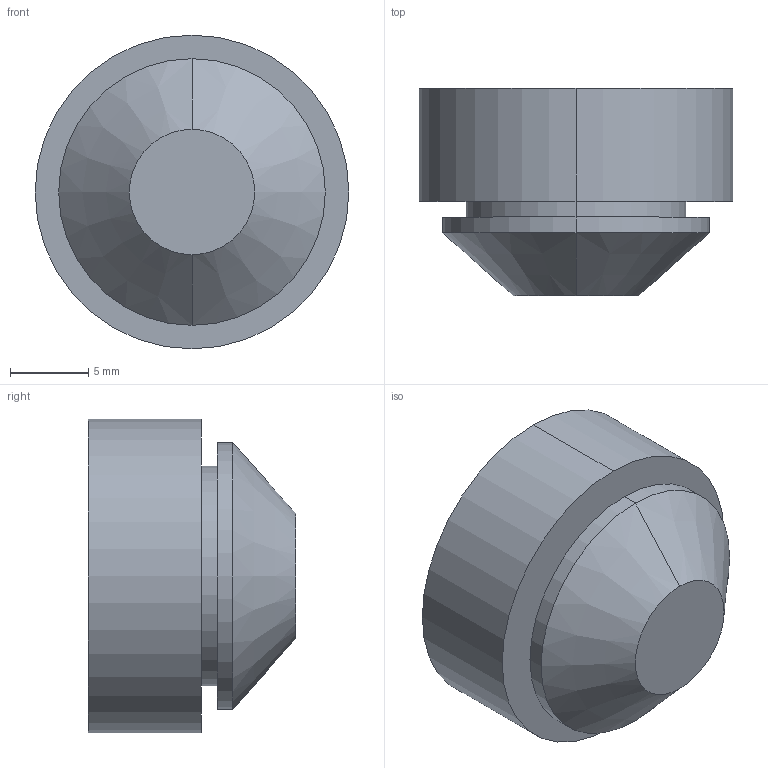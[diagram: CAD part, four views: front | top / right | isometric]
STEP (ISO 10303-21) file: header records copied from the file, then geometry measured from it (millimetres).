
FILE_DESCRIPTION (( 'STEP AP203' ), '1' );
FILE_NAME ('100715.STEP', '2012-10-29T10:52:37', ( 'Joni' ), ( 'Hewlett-Packard Company' ), 'SwSTEP 2.0', 'SolidWorks 2012', '' );
FILE_SCHEMA (( 'CONFIG_CONTROL_DESIGN' ));
Length unit declared in the file: millimetre
Products named in the file (1): 100715
Bounding box: 20 x 13.2 x 20 mm (x, y, z)
Volume: 3154.9 mm3; surface area: 1383.9 mm2
Topology: 1 solids, 1 shells, 12 faces, 22 edges, 14 vertices
Faces by surface type: cylinder 6, plane 4, cone 2
Entity records: 381 total; most frequent: DIRECTION 62, CARTESIAN_POINT 49, ORIENTED_EDGE 44, AXIS2_PLACEMENT_3D 27, EDGE_CURVE 22, CIRCLE 14, EDGE_LOOP 14, VERTEX_POINT 14
